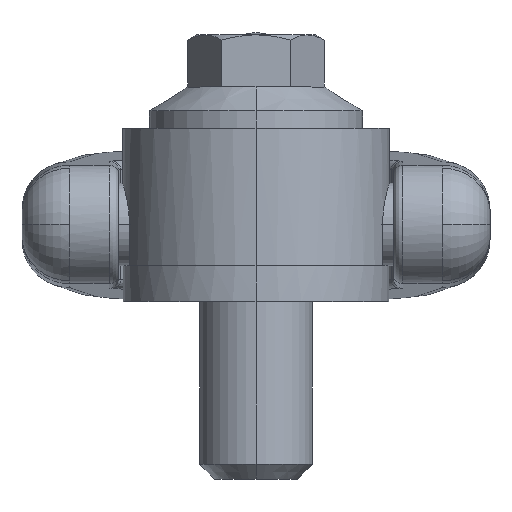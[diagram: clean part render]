
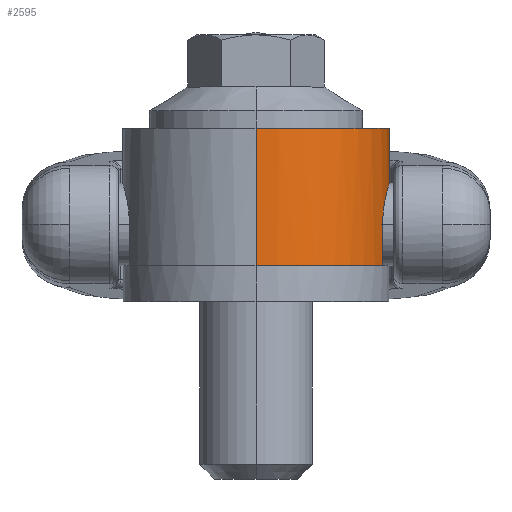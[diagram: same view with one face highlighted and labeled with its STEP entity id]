
A CAD part, top view. The second image highlights one B-rep face of the part: STEP entity #2595.
In plain terms, the highlighted cylindrical face has radius 22.5 mm (diameter 45 mm), a partial arc.
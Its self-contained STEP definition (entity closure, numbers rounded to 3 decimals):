
#30 = VERTEX_POINT ( 'NONE', #3400 ) ;
#32 = VERTEX_POINT ( 'NONE', #3401 ) ;
#33 = ORIENTED_EDGE ( 'NONE', *, *, #1182, .T. ) ;
#38 = EDGE_CURVE ( 'NONE', #30, #32, #3576, .T. ) ;
#41 = EDGE_LOOP ( 'NONE', ( #42, #33, #129, #2011, #131, #86, #65, #46 ) ) ;
#42 = ORIENTED_EDGE ( 'NONE', *, *, #38, .F. ) ;
#45 = EDGE_CURVE ( 'NONE', #32, #51, #3558, .T. ) ;
#46 = ORIENTED_EDGE ( 'NONE', *, *, #45, .F. ) ;
#49 = EDGE_CURVE ( 'NONE', #51, #78, #3554, .T. ) ;
#51 = VERTEX_POINT ( 'NONE', #3549 ) ;
#65 = ORIENTED_EDGE ( 'NONE', *, *, #49, .F. ) ;
#78 = VERTEX_POINT ( 'NONE', #3628 ) ;
#83 = EDGE_CURVE ( 'NONE', #126, #78, #3612, .T. ) ;
#86 = ORIENTED_EDGE ( 'NONE', *, *, #83, .T. ) ;
#123 = VERTEX_POINT ( 'NONE', #3737 ) ;
#126 = VERTEX_POINT ( 'NONE', #3735 ) ;
#127 = VERTEX_POINT ( 'NONE', #3734 ) ;
#129 = ORIENTED_EDGE ( 'NONE', *, *, #2012, .F. ) ;
#131 = ORIENTED_EDGE ( 'NONE', *, *, #2000, .T. ) ;
#1182 = EDGE_CURVE ( 'NONE', #30, #127, #3843, .T. ) ;
#2000 = EDGE_CURVE ( 'NONE', #123, #126, #3927, .T. ) ;
#2010 = VERTEX_POINT ( 'NONE', #3932 ) ;
#2011 = ORIENTED_EDGE ( 'NONE', *, *, #2013, .T. ) ;
#2012 = EDGE_CURVE ( 'NONE', #2010, #127, #3997, .T. ) ;
#2013 = EDGE_CURVE ( 'NONE', #2010, #123, #3992, .T. ) ;
#2595 = ADVANCED_FACE ( 'NONE', ( #5248 ), #5247, .T. ) ;
#3400 = CARTESIAN_POINT ( 'NONE',  ( 0., 29.2, 22.5 ) ) ;
#3401 = CARTESIAN_POINT ( 'NONE',  ( 0., 29.2, -22.5 ) ) ;
#3549 = CARTESIAN_POINT ( 'NONE',  ( 0., 6., -22.5 ) ) ;
#3550 = DIRECTION ( 'NONE',  ( 0., 0., -1. ) ) ;
#3551 = DIRECTION ( 'NONE',  ( 0., -1., 0. ) ) ;
#3552 = CARTESIAN_POINT ( 'NONE',  ( 0., 6., 0. ) ) ;
#3553 = AXIS2_PLACEMENT_3D ( 'NONE', #3552, #3551, #3550 ) ;
#3554 = CIRCLE ( 'NONE', #3553, 22.5 ) ;
#3555 = DIRECTION ( 'NONE',  ( 0., -1., 0. ) ) ;
#3556 = VECTOR ( 'NONE', #3555, 1000. ) ;
#3557 = CARTESIAN_POINT ( 'NONE',  ( 0., 45., -22.5 ) ) ;
#3558 = LINE ( 'NONE', #3557, #3556 ) ;
#3572 = DIRECTION ( 'NONE',  ( 0., 0., 1. ) ) ;
#3573 = DIRECTION ( 'NONE',  ( 0., 1., 0. ) ) ;
#3574 = CARTESIAN_POINT ( 'NONE',  ( 0., 29.2, 0. ) ) ;
#3575 = AXIS2_PLACEMENT_3D ( 'NONE', #3574, #3573, #3572 ) ;
#3576 = CIRCLE ( 'NONE', #3575, 22.5 ) ;
#3612 = LINE ( 'NONE', #3657, #3656 ) ;
#3628 = CARTESIAN_POINT ( 'NONE',  ( 21.383, 6., -7. ) ) ;
#3655 = DIRECTION ( 'NONE',  ( 0., -1., 0. ) ) ;
#3656 = VECTOR ( 'NONE', #3655, 1000. ) ;
#3657 = CARTESIAN_POINT ( 'NONE',  ( 21.383, 45., -7. ) ) ;
#3734 = CARTESIAN_POINT ( 'NONE',  ( 0., 6., 22.5 ) ) ;
#3735 = CARTESIAN_POINT ( 'NONE',  ( 21.383, 13., -7. ) ) ;
#3737 = CARTESIAN_POINT ( 'NONE',  ( 21.383, 13., 7. ) ) ;
#3840 = DIRECTION ( 'NONE',  ( 0., -1., 0. ) ) ;
#3841 = VECTOR ( 'NONE', #3840, 1000. ) ;
#3842 = CARTESIAN_POINT ( 'NONE',  ( 0., 45., 22.5 ) ) ;
#3843 = LINE ( 'NONE', #3842, #3841 ) ;
#3893 = CARTESIAN_POINT ( 'NONE',  ( 22.022, 18.267, -4.616 ) ) ;
#3894 = CARTESIAN_POINT ( 'NONE',  ( 22.093, 18.557, -4.263 ) ) ;
#3895 = CARTESIAN_POINT ( 'NONE',  ( 22.128, 18.692, -4.08 ) ) ;
#3896 = CARTESIAN_POINT ( 'NONE',  ( 22.194, 18.945, -3.703 ) ) ;
#3897 = CARTESIAN_POINT ( 'NONE',  ( 22.226, 19.062, -3.508 ) ) ;
#3898 = CARTESIAN_POINT ( 'NONE',  ( 22.286, 19.278, -3.105 ) ) ;
#3899 = CARTESIAN_POINT ( 'NONE',  ( 22.314, 19.377, -2.896 ) ) ;
#3900 = CARTESIAN_POINT ( 'NONE',  ( 22.391, 19.642, -2.258 ) ) ;
#3901 = CARTESIAN_POINT ( 'NONE',  ( 22.431, 19.775, -1.82 ) ) ;
#3902 = CARTESIAN_POINT ( 'NONE',  ( 22.486, 19.954, -0.92 ) ) ;
#3903 = CARTESIAN_POINT ( 'NONE',  ( 22.5, 20., -0.453 ) ) ;
#3904 = CARTESIAN_POINT ( 'NONE',  ( 22.5, 20., 0.467 ) ) ;
#3905 = CARTESIAN_POINT ( 'NONE',  ( 22.486, 19.954, 0.923 ) ) ;
#3906 = CARTESIAN_POINT ( 'NONE',  ( 22.444, 19.818, 1.601 ) ) ;
#3907 = CARTESIAN_POINT ( 'NONE',  ( 22.427, 19.761, 1.827 ) ) ;
#3908 = CARTESIAN_POINT ( 'NONE',  ( 22.387, 19.627, 2.267 ) ) ;
#3909 = CARTESIAN_POINT ( 'NONE',  ( 22.364, 19.549, 2.482 ) ) ;
#3910 = CARTESIAN_POINT ( 'NONE',  ( 22.288, 19.286, 3.113 ) ) ;
#3911 = CARTESIAN_POINT ( 'NONE',  ( 22.227, 19.071, 3.515 ) ) ;
#3912 = CARTESIAN_POINT ( 'NONE',  ( 22.093, 18.559, 4.279 ) ) ;
#3913 = CARTESIAN_POINT ( 'NONE',  ( 22.021, 18.27, 4.63 ) ) ;
#3914 = CARTESIAN_POINT ( 'NONE',  ( 21.913, 17.789, 5.11 ) ) ;
#3915 = CARTESIAN_POINT ( 'NONE',  ( 21.876, 17.621, 5.263 ) ) ;
#3916 = CARTESIAN_POINT ( 'NONE',  ( 21.804, 17.268, 5.553 ) ) ;
#3917 = CARTESIAN_POINT ( 'NONE',  ( 21.769, 17.082, 5.691 ) ) ;
#3918 = CARTESIAN_POINT ( 'NONE',  ( 21.667, 16.514, 6.072 ) ) ;
#3919 = CARTESIAN_POINT ( 'NONE',  ( 21.605, 16.113, 6.287 ) ) ;
#3920 = CARTESIAN_POINT ( 'NONE',  ( 21.526, 15.478, 6.551 ) ) ;
#3921 = CARTESIAN_POINT ( 'NONE',  ( 21.501, 15.26, 6.629 ) ) ;
#3922 = CARTESIAN_POINT ( 'NONE',  ( 21.459, 14.819, 6.764 ) ) ;
#3923 = CARTESIAN_POINT ( 'NONE',  ( 21.442, 14.596, 6.819 ) ) ;
#3924 = CARTESIAN_POINT ( 'NONE',  ( 21.399, 13.923, 6.954 ) ) ;
#3925 = CARTESIAN_POINT ( 'NONE',  ( 21.383, 13.465, 7. ) ) ;
#3926 = CARTESIAN_POINT ( 'NONE',  ( 21.383, 13., 7. ) ) ;
#3927 = B_SPLINE_CURVE_WITH_KNOTS ( 'NONE', 3,
 ( #3926, #3925, #3924, #3923, #3922, #3921, #3920, #3919, #3918, #3917, #3916, #3915, #3914, #3913, #3912, #3911, #3910, #3909, #3908, #3907, #3906, #3905, #3904, #3903, #3902, #3901, #3900, #3899, #3898, #3897, #3896, #3895, #3894, #3893, #3964, #3963, #3962, #3961, #3960, #3959, #3958, #3957, #3956, #3955, #3954, #3953 ),
 .UNSPECIFIED., .F., .F.,
 ( 4, 2, 2, 2, 2, 2, 2, 2, 2, 2, 2, 2, 2, 2, 2, 2, 2, 2, 2, 2, 2, 2, 4 ),
 ( 0., 0.001, 0.002, 0.003, 0.004, 0.005, 0.006, 0.007, 0.008, 0.009, 0.01, 0.011, 0.012, 0.014, 0.014, 0.015, 0.016, 0.017, 0.018, 0.019, 0.021, 0.021, 0.022 ),
 .UNSPECIFIED. ) ;
#3932 = CARTESIAN_POINT ( 'NONE',  ( 21.383, 6., 7. ) ) ;
#3953 = CARTESIAN_POINT ( 'NONE',  ( 21.383, 13., -7. ) ) ;
#3954 = CARTESIAN_POINT ( 'NONE',  ( 21.383, 13.233, -7. ) ) ;
#3955 = CARTESIAN_POINT ( 'NONE',  ( 21.387, 13.465, -6.988 ) ) ;
#3956 = CARTESIAN_POINT ( 'NONE',  ( 21.402, 13.926, -6.942 ) ) ;
#3957 = CARTESIAN_POINT ( 'NONE',  ( 21.413, 14.157, -6.908 ) ) ;
#3958 = CARTESIAN_POINT ( 'NONE',  ( 21.457, 14.835, -6.771 ) ) ;
#3959 = CARTESIAN_POINT ( 'NONE',  ( 21.5, 15.271, -6.637 ) ) ;
#3960 = CARTESIAN_POINT ( 'NONE',  ( 21.605, 16.114, -6.286 ) ) ;
#3961 = CARTESIAN_POINT ( 'NONE',  ( 21.669, 16.523, -6.066 ) ) ;
#3962 = CARTESIAN_POINT ( 'NONE',  ( 21.804, 17.279, -5.559 ) ) ;
#3963 = CARTESIAN_POINT ( 'NONE',  ( 21.876, 17.629, -5.271 ) ) ;
#3964 = CARTESIAN_POINT ( 'NONE',  ( 21.986, 18.113, -4.787 ) ) ;
#3989 = DIRECTION ( 'NONE',  ( 0., 1., 0. ) ) ;
#3990 = VECTOR ( 'NONE', #3989, 1000. ) ;
#3991 = CARTESIAN_POINT ( 'NONE',  ( 21.383, 45., 7. ) ) ;
#3992 = LINE ( 'NONE', #3991, #3990 ) ;
#3993 = DIRECTION ( 'NONE',  ( 0., 0., -1. ) ) ;
#3994 = DIRECTION ( 'NONE',  ( 0., -1., 0. ) ) ;
#3995 = CARTESIAN_POINT ( 'NONE',  ( 0., 6., 0. ) ) ;
#3996 = AXIS2_PLACEMENT_3D ( 'NONE', #3995, #3994, #3993 ) ;
#3997 = CIRCLE ( 'NONE', #3996, 22.5 ) ;
#5243 = DIRECTION ( 'NONE',  ( 0., 0., -1. ) ) ;
#5244 = DIRECTION ( 'NONE',  ( 0., -1., 0. ) ) ;
#5245 = CARTESIAN_POINT ( 'NONE',  ( 0., 45., 0. ) ) ;
#5246 = AXIS2_PLACEMENT_3D ( 'NONE', #5245, #5244, #5243 ) ;
#5247 = CYLINDRICAL_SURFACE ( 'NONE', #5246, 22.5 ) ;
#5248 = FACE_OUTER_BOUND ( 'NONE', #41, .T. ) ;
